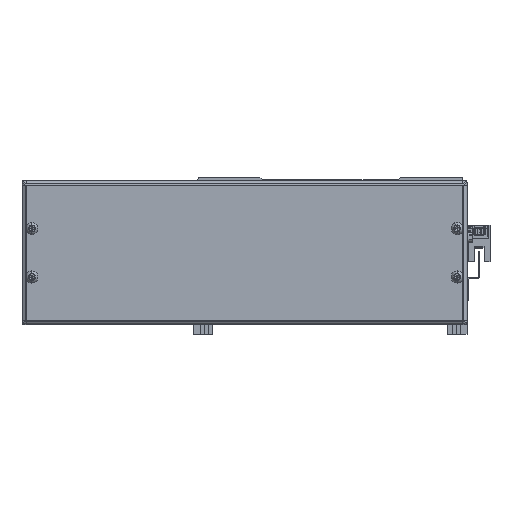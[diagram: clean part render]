
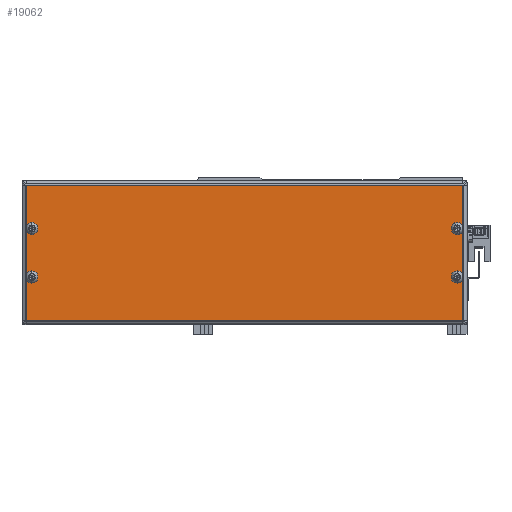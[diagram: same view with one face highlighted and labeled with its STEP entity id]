
A CAD part, front view. The second image highlights one B-rep face of the part: STEP entity #19062.
In plain terms, the highlighted planar face has unit normal (0, -1, 0) as drawn and (0, 0, -1) by its records, which use the part's own axes.
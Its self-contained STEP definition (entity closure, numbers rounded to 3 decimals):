
#210 = EDGE_CURVE ( 'NONE', #562, #21721, #15265, .T. ) ;
#298 = VERTEX_POINT ( 'NONE', #16042 ) ;
#562 = VERTEX_POINT ( 'NONE', #8327 ) ;
#637 = ORIENTED_EDGE ( 'NONE', *, *, #2334, .F. ) ;
#804 = CIRCLE ( 'NONE', #22517, 2.25 ) ;
#1136 = AXIS2_PLACEMENT_3D ( 'NONE', #29269, #35341, #38462 ) ;
#1165 = EDGE_CURVE ( 'NONE', #19420, #13978, #11309, .T. ) ;
#1587 = CARTESIAN_POINT ( 'NONE',  ( 71.517, 0.706, -242.5 ) ) ;
#2334 = EDGE_CURVE ( 'NONE', #29871, #38230, #34372, .T. ) ;
#2670 = ORIENTED_EDGE ( 'NONE', *, *, #34294, .F. ) ;
#2740 = CARTESIAN_POINT ( 'NONE',  ( -197.026, 57.469, -242.5 ) ) ;
#2949 = VERTEX_POINT ( 'NONE', #29215 ) ;
#3060 = CIRCLE ( 'NONE', #18281, 2.25 ) ;
#3197 = CARTESIAN_POINT ( 'NONE',  ( -191.483, 30.706, -242.5 ) ) ;
#3516 = CIRCLE ( 'NONE', #30466, 2.25 ) ;
#4542 = CIRCLE ( 'NONE', #19585, 2.25 ) ;
#4801 = CARTESIAN_POINT ( 'NONE',  ( 69.267, 30.706, -242.5 ) ) ;
#6836 = PLANE ( 'NONE',  #13904 ) ;
#6917 = VERTEX_POINT ( 'NONE', #9777 ) ;
#7315 = EDGE_LOOP ( 'NONE', ( #2670, #19284 ) ) ;
#7979 = DIRECTION ( 'NONE',  ( 0., 0., -1. ) ) ;
#8201 = DIRECTION ( 'NONE',  ( 0., 1., 0. ) ) ;
#8327 = CARTESIAN_POINT ( 'NONE',  ( 72.531, -26.058, -242.5 ) ) ;
#8370 = EDGE_LOOP ( 'NONE', ( #13506, #637 ) ) ;
#8395 = FACE_BOUND ( 'NONE', #7315, .T. ) ;
#8434 = DIRECTION ( 'NONE',  ( -1., 0., 0. ) ) ;
#8483 = EDGE_CURVE ( 'NONE', #21721, #14250, #28997, .T. ) ;
#9034 = DIRECTION ( 'NONE',  ( 0., 0., -1. ) ) ;
#9745 = DIRECTION ( 'NONE',  ( -1., 0., 0. ) ) ;
#9777 = CARTESIAN_POINT ( 'NONE',  ( -191.483, 0.706, -242.5 ) ) ;
#10772 = VECTOR ( 'NONE', #18220, 1000. ) ;
#10953 = DIRECTION ( 'NONE',  ( -1., 0., 0. ) ) ;
#11243 = CARTESIAN_POINT ( 'NONE',  ( -193.733, 0.706, -242.5 ) ) ;
#11309 = CIRCLE ( 'NONE', #22923, 2.25 ) ;
#11708 = VECTOR ( 'NONE', #36531, 1000. ) ;
#11852 = ORIENTED_EDGE ( 'NONE', *, *, #8483, .T. ) ;
#12484 = AXIS2_PLACEMENT_3D ( 'NONE', #11243, #32900, #33185 ) ;
#12884 = CARTESIAN_POINT ( 'NONE',  ( 67.017, 30.706, -242.5 ) ) ;
#13011 = DIRECTION ( 'NONE',  ( -1., 0., 0. ) ) ;
#13042 = EDGE_CURVE ( 'NONE', #20030, #36878, #804, .T. ) ;
#13193 = DIRECTION ( 'NONE',  ( -1., 0., 0. ) ) ;
#13506 = ORIENTED_EDGE ( 'NONE', *, *, #21962, .F. ) ;
#13610 = CARTESIAN_POINT ( 'NONE',  ( 69.267, 0.706, -242.5 ) ) ;
#13904 = AXIS2_PLACEMENT_3D ( 'NONE', #19218, #34967, #13011 ) ;
#13978 = VERTEX_POINT ( 'NONE', #3197 ) ;
#14250 = VERTEX_POINT ( 'NONE', #19884 ) ;
#14612 = ORIENTED_EDGE ( 'NONE', *, *, #14926, .T. ) ;
#14638 = DIRECTION ( 'NONE',  ( 0., 0., -1. ) ) ;
#14926 = EDGE_CURVE ( 'NONE', #298, #562, #25173, .T. ) ;
#15057 = CIRCLE ( 'NONE', #1136, 2.25 ) ;
#15265 = LINE ( 'NONE', #34359, #34034 ) ;
#15606 = EDGE_LOOP ( 'NONE', ( #17115, #38407 ) ) ;
#16042 = CARTESIAN_POINT ( 'NONE',  ( 72.531, 57.469, -242.5 ) ) ;
#17108 = FACE_BOUND ( 'NONE', #35358, .T. ) ;
#17115 = ORIENTED_EDGE ( 'NONE', *, *, #1165, .F. ) ;
#17894 = CIRCLE ( 'NONE', #12484, 2.25 ) ;
#18073 = CARTESIAN_POINT ( 'NONE',  ( -193.733, 0.706, -242.5 ) ) ;
#18220 = DIRECTION ( 'NONE',  ( 1., 0., 0. ) ) ;
#18281 = AXIS2_PLACEMENT_3D ( 'NONE', #18073, #9034, #27096 ) ;
#18365 = ORIENTED_EDGE ( 'NONE', *, *, #34418, .F. ) ;
#19062 = ADVANCED_FACE ( 'NONE', ( #17108, #26239, #24765, #8395, #19501 ), #6836, .T. ) ;
#19218 = CARTESIAN_POINT ( 'NONE',  ( 46.617, 5.246, -242.5 ) ) ;
#19284 = ORIENTED_EDGE ( 'NONE', *, *, #13042, .F. ) ;
#19420 = VERTEX_POINT ( 'NONE', #21211 ) ;
#19501 = FACE_OUTER_BOUND ( 'NONE', #31271, .T. ) ;
#19585 = AXIS2_PLACEMENT_3D ( 'NONE', #36658, #36389, #30428 ) ;
#19656 = AXIS2_PLACEMENT_3D ( 'NONE', #4801, #35491, #38994 ) ;
#19884 = CARTESIAN_POINT ( 'NONE',  ( -196.996, 57.469, -242.5 ) ) ;
#19888 = EDGE_CURVE ( 'NONE', #14250, #298, #31941, .T. ) ;
#20030 = VERTEX_POINT ( 'NONE', #1587 ) ;
#21211 = CARTESIAN_POINT ( 'NONE',  ( -195.983, 30.706, -242.5 ) ) ;
#21721 = VERTEX_POINT ( 'NONE', #25422 ) ;
#21764 = ORIENTED_EDGE ( 'NONE', *, *, #19888, .T. ) ;
#21962 = EDGE_CURVE ( 'NONE', #38230, #29871, #3516, .T. ) ;
#22517 = AXIS2_PLACEMENT_3D ( 'NONE', #13610, #7979, #10953 ) ;
#22923 = AXIS2_PLACEMENT_3D ( 'NONE', #34913, #37368, #9745 ) ;
#23609 = ORIENTED_EDGE ( 'NONE', *, *, #39380, .F. ) ;
#23659 = CARTESIAN_POINT ( 'NONE',  ( -196.996, -26.087, -242.5 ) ) ;
#23769 = CARTESIAN_POINT ( 'NONE',  ( 69.267, 30.706, -242.5 ) ) ;
#24765 = FACE_BOUND ( 'NONE', #8370, .T. ) ;
#25173 = LINE ( 'NONE', #33682, #11708 ) ;
#25422 = CARTESIAN_POINT ( 'NONE',  ( -196.996, -26.058, -242.5 ) ) ;
#26008 = CARTESIAN_POINT ( 'NONE',  ( 67.017, 0.706, -242.5 ) ) ;
#26239 = FACE_BOUND ( 'NONE', #15606, .T. ) ;
#27096 = DIRECTION ( 'NONE',  ( -1., 0., 0. ) ) ;
#28344 = ORIENTED_EDGE ( 'NONE', *, *, #210, .T. ) ;
#28997 = LINE ( 'NONE', #23659, #39152 ) ;
#29198 = EDGE_CURVE ( 'NONE', #13978, #19420, #15057, .T. ) ;
#29215 = CARTESIAN_POINT ( 'NONE',  ( -195.983, 0.706, -242.5 ) ) ;
#29269 = CARTESIAN_POINT ( 'NONE',  ( -193.733, 30.706, -242.5 ) ) ;
#29871 = VERTEX_POINT ( 'NONE', #30273 ) ;
#30273 = CARTESIAN_POINT ( 'NONE',  ( 71.517, 30.706, -242.5 ) ) ;
#30428 = DIRECTION ( 'NONE',  ( -1., 0., 0. ) ) ;
#30466 = AXIS2_PLACEMENT_3D ( 'NONE', #23769, #14638, #8434 ) ;
#31271 = EDGE_LOOP ( 'NONE', ( #28344, #11852, #21764, #14612 ) ) ;
#31941 = LINE ( 'NONE', #2740, #10772 ) ;
#32900 = DIRECTION ( 'NONE',  ( 0., 0., -1. ) ) ;
#33185 = DIRECTION ( 'NONE',  ( -1., 0., 0. ) ) ;
#33682 = CARTESIAN_POINT ( 'NONE',  ( 72.531, 57.499, -242.5 ) ) ;
#34034 = VECTOR ( 'NONE', #13193, 1000. ) ;
#34294 = EDGE_CURVE ( 'NONE', #36878, #20030, #4542, .T. ) ;
#34359 = CARTESIAN_POINT ( 'NONE',  ( 72.56, -26.058, -242.5 ) ) ;
#34372 = CIRCLE ( 'NONE', #19656, 2.25 ) ;
#34418 = EDGE_CURVE ( 'NONE', #6917, #2949, #3060, .T. ) ;
#34913 = CARTESIAN_POINT ( 'NONE',  ( -193.733, 30.706, -242.5 ) ) ;
#34967 = DIRECTION ( 'NONE',  ( 0., 0., -1. ) ) ;
#35341 = DIRECTION ( 'NONE',  ( 0., 0., -1. ) ) ;
#35358 = EDGE_LOOP ( 'NONE', ( #23609, #18365 ) ) ;
#35491 = DIRECTION ( 'NONE',  ( 0., 0., -1. ) ) ;
#36389 = DIRECTION ( 'NONE',  ( 0., 0., -1. ) ) ;
#36531 = DIRECTION ( 'NONE',  ( 0., -1., 0. ) ) ;
#36658 = CARTESIAN_POINT ( 'NONE',  ( 69.267, 0.706, -242.5 ) ) ;
#36878 = VERTEX_POINT ( 'NONE', #26008 ) ;
#37368 = DIRECTION ( 'NONE',  ( 0., 0., -1. ) ) ;
#38230 = VERTEX_POINT ( 'NONE', #12884 ) ;
#38407 = ORIENTED_EDGE ( 'NONE', *, *, #29198, .F. ) ;
#38462 = DIRECTION ( 'NONE',  ( -1., 0., 0. ) ) ;
#38994 = DIRECTION ( 'NONE',  ( -1., 0., 0. ) ) ;
#39152 = VECTOR ( 'NONE', #8201, 1000. ) ;
#39380 = EDGE_CURVE ( 'NONE', #2949, #6917, #17894, .T. ) ;
